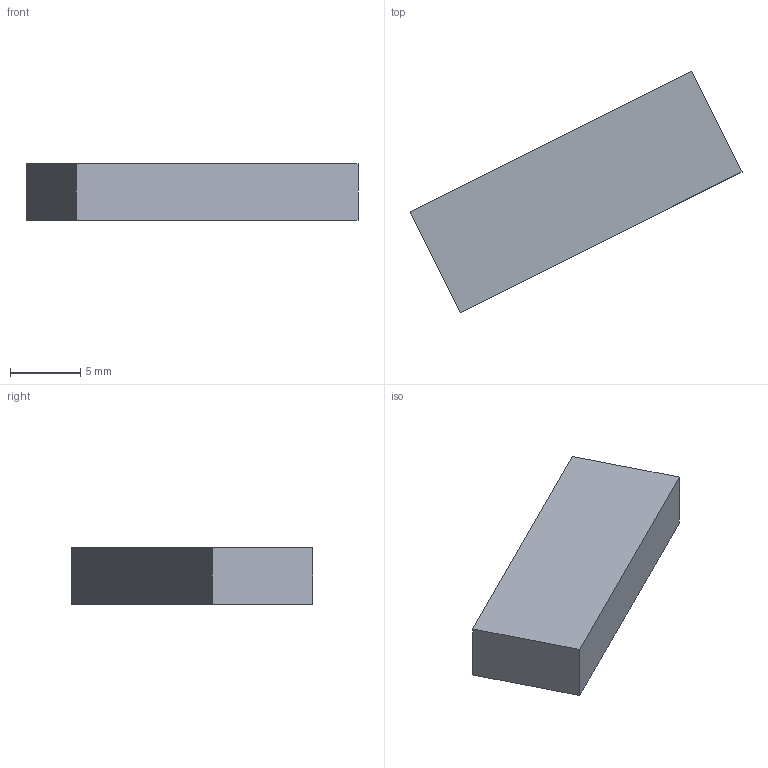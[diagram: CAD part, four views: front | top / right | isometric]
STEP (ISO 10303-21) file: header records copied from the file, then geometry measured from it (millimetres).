
FILE_DESCRIPTION(('Open CASCADE Model'),'2;1');
FILE_NAME('Open CASCADE Shape Model','2026-10-04T01:02:34',('Author'),( 'Open CASCADE'),'Open CASCADE STEP processor 8.0','Open CASCADE 8.0' ,'Unknown');
FILE_SCHEMA(('AUTOMOTIVE_DESIGN { 1 0 10303 214 1 1 1 1 }'));
Length unit declared in the file: millimetre
Products named in the file (1): Open CASCADE STEP translator 8.0 369
Bounding box: 23.58 x 17.16 x 4 mm (x, y, z)
Volume: 715.5 mm3; surface area: 600.7 mm2
Topology: 1 solids, 1 shells, 6 faces, 12 edges, 8 vertices
Faces by surface type: plane 6
Entity records: 322 total; most frequent: CARTESIAN_POINT 51, DIRECTION 50, LINE 36, VECTOR 36, ORIENTED_EDGE 24, PCURVE 24, DEFINITIONAL_REPRESENTATION 24, EDGE_CURVE 12
